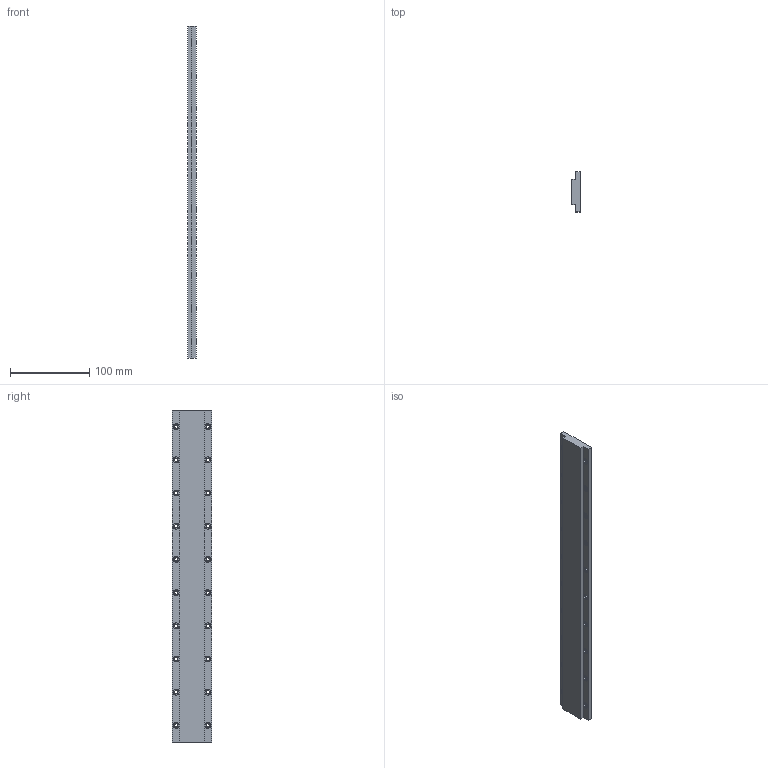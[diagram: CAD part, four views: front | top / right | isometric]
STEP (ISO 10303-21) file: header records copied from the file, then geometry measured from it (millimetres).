
FILE_DESCRIPTION (( 'STEP AP214' ), '1' );
FILE_NAME ('2-WKM30-420.STEP', '2025-09-05T11:41:11', ( '' ), ( '' ), 'SwSTEP 2.0', 'SolidWorks 2016', '' );
FILE_SCHEMA (( 'AUTOMOTIVE_DESIGN' ));
Length unit declared in the file: millimetre
Products named in the file (1): 2-WKM30-420
Bounding box: 10.8 x 50 x 420 mm (x, y, z)
Volume: 187583.1 mm3; surface area: 53421.5 mm2
Topology: 1 solids, 1 shells, 110 faces, 264 edges, 176 vertices
Faces by surface type: cylinder 80, plane 30
Entity records: 3402 total; most frequent: DIRECTION 646, CARTESIAN_POINT 551, ORIENTED_EDGE 528, AXIS2_PLACEMENT_3D 271, EDGE_CURVE 264, VERTEX_POINT 176, EDGE_LOOP 170, CIRCLE 160
